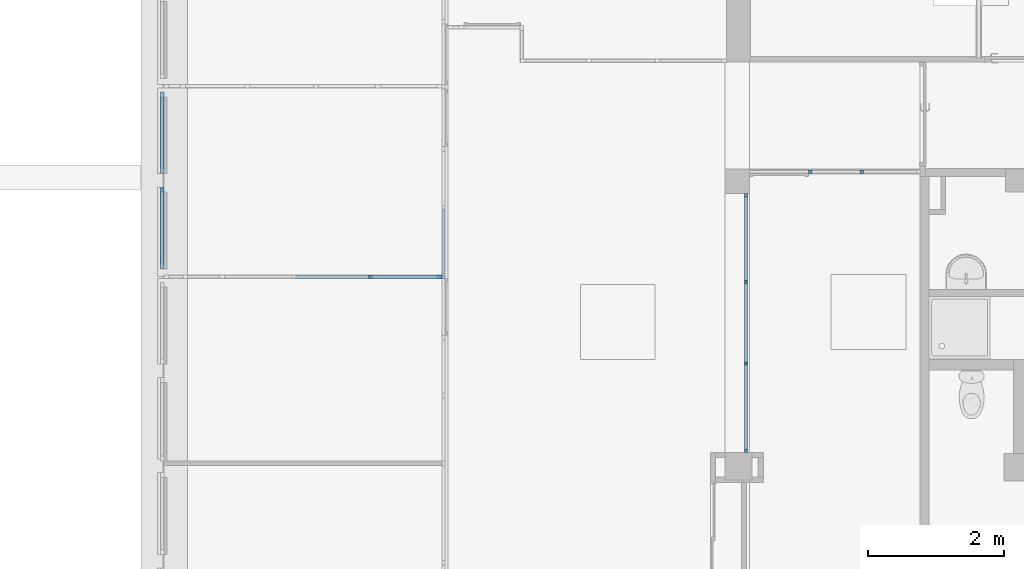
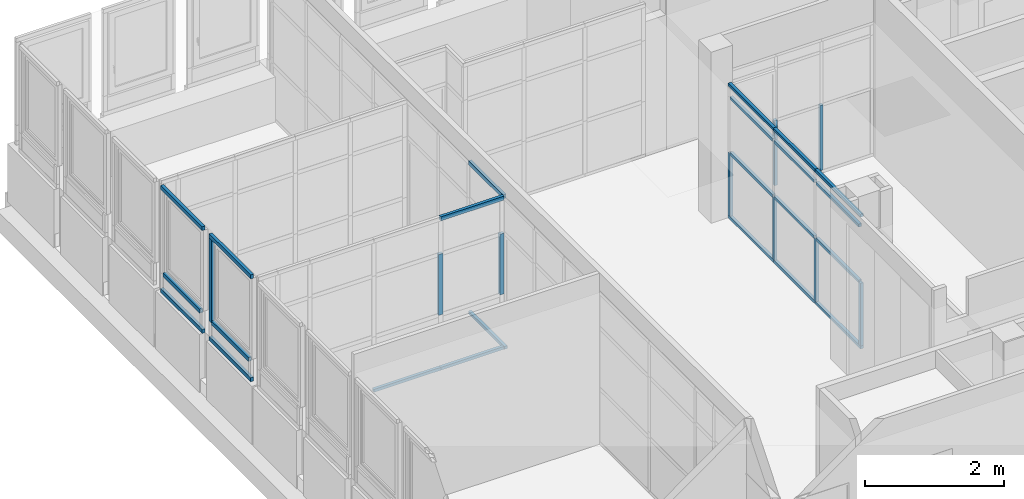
# One storey, part 7 of 97: 32 members, 6 elements without a shape of their own.
"""IFC4 building model written with IfcOpenShell, lengths in metres."""

from ifc_helpers import new_model, entity, si_unit, converted_unit, derived_unit, direction, frame, origin, place, context, subcontext, project, spatial, indexed_curve, outline, extrude, source, transform, mapped, material, type_object, type_shapes, element, aggregate, save


model = new_model("IFC4")

# Units and contexts
model_context = context("Model", 3, precision=1e-05, world=origin(), true_north=direction((6.12303176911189e-17, 1.0)))
body_context = subcontext(model_context, "Body", "Model", "MODEL_VIEW")
ifc_project = project(units=[si_unit("LENGTHUNIT", "METRE"), si_unit("AREAUNIT", "SQUARE_METRE"), si_unit("VOLUMEUNIT", "CUBIC_METRE"), converted_unit("PLANEANGLEUNIT", "DEGREE", entity("IfcRatioMeasure", 0.0174532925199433), si_unit("PLANEANGLEUNIT", "RADIAN"), dimensions=[0, 0, 0, 0, 0, 0, 0]), si_unit("MASSUNIT", "GRAM", prefix="KILO"), derived_unit("MASSDENSITYUNIT", [(si_unit("MASSUNIT", "GRAM", prefix="KILO"), 1), (si_unit("LENGTHUNIT", "METRE"), -3)]), derived_unit("MOMENTOFINERTIAUNIT", [(si_unit("LENGTHUNIT", "METRE"), 4)]), si_unit("TIMEUNIT", "SECOND"), si_unit("FREQUENCYUNIT", "HERTZ"), si_unit("THERMODYNAMICTEMPERATUREUNIT", "DEGREE_CELSIUS"), derived_unit("THERMALTRANSMITTANCEUNIT", [(si_unit("MASSUNIT", "GRAM", prefix="KILO"), 1), (si_unit("THERMODYNAMICTEMPERATUREUNIT", "KELVIN"), -1), (si_unit("TIMEUNIT", "SECOND"), -3)]), derived_unit("VOLUMETRICFLOWRATEUNIT", [(si_unit("LENGTHUNIT", "METRE"), 3), (si_unit("TIMEUNIT", "SECOND"), -1)]), si_unit("ELECTRICCURRENTUNIT", "AMPERE"), si_unit("ELECTRICVOLTAGEUNIT", "VOLT"), si_unit("POWERUNIT", "WATT"), si_unit("FORCEUNIT", "NEWTON", prefix="KILO"), si_unit("ILLUMINANCEUNIT", "LUX"), si_unit("LUMINOUSFLUXUNIT", "LUMEN"), si_unit("LUMINOUSINTENSITYUNIT", "CANDELA"), derived_unit("USERDEFINED", [(si_unit("MASSUNIT", "GRAM", prefix="KILO"), -1), (si_unit("LENGTHUNIT", "METRE"), -2), (si_unit("TIMEUNIT", "SECOND"), 3), (si_unit("LUMINOUSFLUXUNIT", "LUMEN"), 1)]), derived_unit("LINEARVELOCITYUNIT", [(si_unit("LENGTHUNIT", "METRE"), 1), (si_unit("TIMEUNIT", "SECOND"), -1)]), si_unit("PRESSUREUNIT", "PASCAL"), derived_unit("USERDEFINED", [(si_unit("LENGTHUNIT", "METRE"), -2), (si_unit("MASSUNIT", "GRAM", prefix="KILO"), 1), (si_unit("TIMEUNIT", "SECOND"), -2)]), derived_unit("LINEARFORCEUNIT", [(si_unit("MASSUNIT", "GRAM", prefix="KILO"), 1), (si_unit("LENGTHUNIT", "METRE"), 1), (si_unit("TIMEUNIT", "SECOND"), -2), (si_unit("LENGTHUNIT", "METRE"), -1)]), derived_unit("PLANARFORCEUNIT", [(si_unit("MASSUNIT", "GRAM", prefix="KILO"), 1), (si_unit("LENGTHUNIT", "METRE"), 1), (si_unit("TIMEUNIT", "SECOND"), -2), (si_unit("LENGTHUNIT", "METRE"), -2)])], contexts=[model_context])

# Site, building, storey
site_placement = place(None, origin())
site = spatial("IfcSite", under=ifc_project, at=site_placement, Name="Default", CompositionType="ELEMENT")
building_placement = place(site_placement, origin())
building = spatial("IfcBuilding", under=site, at=building_placement, Name="HOTEL CONSULAIRE BOULOGNE SUR MER", CompositionType="ELEMENT")
storey_placement = place(building_placement, frame((0.0, 0.0, 3.62152697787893)))
storey = spatial("IfcBuildingStorey", under=building, at=storey_placement, Name="Niveau 1", CompositionType="ELEMENT", Elevation=3.62152697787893)

# Curtain wall, member
curtain_wall_type = type_object("IfcCurtainWallType", Name="Mur-rideau:Simple panneau", PredefinedType="NOTDEFINED")
curtain_wall_1_placement = place(storey_placement, frame((0.0, 0.0, -3.62152697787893)))
curtain_wall_1 = element("IfcCurtainWall", 1, at=curtain_wall_1_placement, inside=storey, type_object=curtain_wall_type, Name="Mur-rideau:Simple panneau", ObjectType="Mur-rideau:Simple panneau", PredefinedType="NOTDEFINED")
ifc_material_1 = material(Name="PVC - Blanc", Category="Plastique")
member_type_1 = type_object("IfcMemberType", Name="Meneau rectangulaire:50 x 35", PredefinedType="MULLION", material=ifc_material_1)
shared_shape_1 = source(origin(), body_context, "Body", "SweptSolid", [
    extrude(outline(indexed_curve([(-0.025, -0.035), (0.025, -0.035), (0.025, 0.035), (-0.025, 0.035), (-0.025, -0.035)], self_intersect=False)), frame((-0.035, -0.025, -1.20000000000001), z_axis=(0.0, 0.0, 1.0), x_axis=(0.0, -1.0, 0.0)), (0.0, 0.0, 1.0), 1.20000000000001),
])
type_shapes(member_type_1, [shared_shape_1])
member_1_placement = place(storey_placement, frame((-13.7870998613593, -16.9114499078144, 0.791612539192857), z_axis=(0.0, -1.0, 0.0), x_axis=(0.0, 0.0, -1.0)))
member_1 = element("IfcMember", 2, at=member_1_placement, type_object=member_type_1, material=ifc_material_1, Name="Meneau rectangulaire:50 x 35", ObjectType="Meneau rectangulaire:50 x 35", PredefinedType="MULLION", context=body_context, shape_type="MappedRepresentation", body=[
    mapped(shared_shape_1, transform((0.0, 0.0, 0.0), scale=1.0)),
])

curtain_wall_2_placement = place(storey_placement, frame((0.0, 0.0, -3.62152697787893)))
curtain_wall_2 = element("IfcCurtainWall", 3, at=curtain_wall_2_placement, inside=storey, type_object=curtain_wall_type, Name="Mur-rideau:Simple panneau", ObjectType="Mur-rideau:Simple panneau", PredefinedType="NOTDEFINED")
member_2_placement = place(storey_placement, frame((-13.7870998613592, -15.5114499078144, 0.791612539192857), z_axis=(0.0, -1.0, 0.0), x_axis=(0.0, 0.0, -1.0)))
member_2 = element("IfcMember", 4, at=member_2_placement, type_object=member_type_1, material=ifc_material_1, Name="Meneau rectangulaire:50 x 35", ObjectType="Meneau rectangulaire:50 x 35", PredefinedType="MULLION", context=body_context, shape_type="MappedRepresentation", body=[
    mapped(shared_shape_1, transform((0.0, 0.0, 0.0), scale=1.0)),
])

# Member
member_type_2 = type_object("IfcMemberType", Name="Meneau rectangulaire:50 x 35", PredefinedType="MULLION", material=ifc_material_1)
shared_shape_2 = source(origin(), body_context, "Body", "SweptSolid", [
    extrude(outline(indexed_curve([(-0.025, -0.035), (0.025, -0.035), (0.025, 0.035), (-0.025, 0.035), (-0.025, -0.035)], self_intersect=False)), frame((0.0, -0.025, -1.06000000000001), z_axis=(0.0, 0.0, 1.0), x_axis=(0.0, -1.0, 0.0)), (0.0, 0.0, 1.0), 1.06000000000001),
])
type_shapes(member_type_2, [shared_shape_2])
member_3_placement = place(storey_placement, frame((-13.7870998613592, -15.7814499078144, 1.13961253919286), z_axis=(0.0, 1.0, 0.0), x_axis=(0.0, 0.0, 1.0)))
member_3 = element("IfcMember", 5, at=member_3_placement, type_object=member_type_2, material=ifc_material_1, Name="Meneau rectangulaire:50 x 35", ObjectType="Meneau rectangulaire:50 x 35", PredefinedType="MULLION", context=body_context, shape_type="MappedRepresentation", body=[
    mapped(shared_shape_2, transform((0.0, 0.0, 0.0), scale=1.0)),
])

member_4_placement = place(storey_placement, frame((-13.7870998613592, -14.3814499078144, 1.13961253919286), z_axis=(0.0, 1.0, 0.0), x_axis=(0.0, 0.0, 1.0)))
member_4 = element("IfcMember", 6, at=member_4_placement, type_object=member_type_2, material=ifc_material_1, Name="Meneau rectangulaire:50 x 35", ObjectType="Meneau rectangulaire:50 x 35", PredefinedType="MULLION", context=body_context, shape_type="MappedRepresentation", body=[
    mapped(shared_shape_2, transform((0.0, 0.0, 0.0), scale=1.0)),
])

member_type_3 = type_object("IfcMemberType", Name="Meneau rectangulaire:50 x 35", PredefinedType="MULLION", material=ifc_material_1)
shared_shape_3 = source(origin(), body_context, "Body", "SweptSolid", [
    extrude(outline(indexed_curve([(-0.025, -0.035), (0.025, -0.035), (0.025, 0.035), (-0.025, 0.035), (-0.025, -0.035)], self_intersect=False)), frame((-0.035, -0.025, -1.46086048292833), z_axis=(0.0, 0.0, 1.0), x_axis=(0.0, -1.0, 0.0)), (0.0, 0.0, 1.0), 1.46086048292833),
])
type_shapes(member_type_3, [shared_shape_3])
member_5_placement = place(storey_placement, frame((-13.7870998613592, -15.7114499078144, 1.13961253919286), z_axis=(0.0, 0.0, -1.0), x_axis=(0.0, 1.0, 0.0)))
member_5 = element("IfcMember", 7, at=member_5_placement, type_object=member_type_3, material=ifc_material_1, Name="Meneau rectangulaire:50 x 35", ObjectType="Meneau rectangulaire:50 x 35", PredefinedType="MULLION", context=body_context, shape_type="MappedRepresentation", body=[
    mapped(shared_shape_3, transform((0.0, 0.0, 0.0), scale=1.0)),
])

member_type_4 = type_object("IfcMemberType", Name="Meneau rectangulaire:50 x 35", PredefinedType="MULLION", material=ifc_material_1)
shared_shape_4 = source(origin(), body_context, "Body", "SweptSolid", [
    extrude(outline(indexed_curve([(-0.025, -0.035), (0.025, -0.035), (0.025, 0.035), (-0.025, 0.035), (-0.025, -0.035)], self_intersect=False)), frame((-0.035, -0.025, -1.20000000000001), z_axis=(0.0, 0.0, 1.0), x_axis=(0.0, -1.0, 0.0)), (0.0, 0.0, 1.0), 1.20000000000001),
])
type_shapes(member_type_4, [shared_shape_4])
member_6_placement = place(storey_placement, frame((-13.7870998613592, -15.7114499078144, 2.67047302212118), z_axis=(0.0, 1.0, 0.0), x_axis=(0.0, 0.0, 1.0)))
member_6 = element("IfcMember", 8, at=member_6_placement, type_object=member_type_4, material=ifc_material_1, Name="Meneau rectangulaire:50 x 35", ObjectType="Meneau rectangulaire:50 x 35", PredefinedType="MULLION", context=body_context, shape_type="MappedRepresentation", body=[
    mapped(shared_shape_4, transform((0.0, 0.0, 0.0), scale=1.0)),
])

aggregate(curtain_wall_1, [member_6, member_1, member_3, member_5])

member_7_placement = place(storey_placement, frame((-13.7870998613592, -14.3114499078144, 2.67047302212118), z_axis=(0.0, 1.0, 0.0), x_axis=(0.0, 0.0, 1.0)))
member_7 = element("IfcMember", 9, at=member_7_placement, type_object=member_type_4, material=ifc_material_1, Name="Meneau rectangulaire:50 x 35", ObjectType="Meneau rectangulaire:50 x 35", PredefinedType="MULLION", context=body_context, shape_type="MappedRepresentation", body=[
    mapped(shared_shape_4, transform((0.0, 0.0, 0.0), scale=1.0)),
])

aggregate(curtain_wall_2, [member_7, member_2, member_4])

# Curtain wall, members
curtain_wall_3_placement = place(storey_placement, frame((0.0, 0.0, -3.62152697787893)))
curtain_wall_3 = element("IfcCurtainWall", 10, at=curtain_wall_3_placement, inside=storey, type_object=curtain_wall_type, Name="Mur-rideau:Simple panneau", ObjectType="Mur-rideau:Simple panneau", PredefinedType="NOTDEFINED")
ifc_material_2 = material(Name="PVC, souple", Category="Plastique")
member_type_5 = type_object("IfcMemberType", Name="Meneau rectangulaire:50 x 35 pvc gris", PredefinedType="MULLION", material=ifc_material_2)
shared_shape_5 = source(origin(), body_context, "Body", "SweptSolid", [
    extrude(outline(indexed_curve([(-0.025, -0.035), (0.025, -0.035), (0.025, 0.035), (-0.025, 0.035), (-0.025, -0.035)], self_intersect=False)), frame((-0.035, -0.025, -0.999), z_axis=(0.0, 0.0, 1.0), x_axis=(0.0, -1.0, 0.0)), (0.0, 0.0, 1.0), 0.999),
])
type_shapes(member_type_5, [shared_shape_5])
member_8_placement = place(storey_placement, frame((-9.64962464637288, -16.0232596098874, 2.69696046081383), z_axis=(0.0, 1.0, 0.0), x_axis=(0.0, 0.0, 1.0)))
member_8 = element("IfcMember", 11, at=member_8_placement, type_object=member_type_5, material=ifc_material_2, Name="Meneau rectangulaire:50 x 35 pvc gris", ObjectType="Meneau rectangulaire:50 x 35 pvc gris", PredefinedType="MULLION", context=body_context, shape_type="MappedRepresentation", body=[
    mapped(shared_shape_5, transform((0.0, 0.0, 0.0), scale=1.0)),
])
member_type_6 = type_object("IfcMemberType", Name="Meneau rectangulaire:50 x 25mm pvc gris", PredefinedType="MULLION", material=ifc_material_2)
shared_shape_6 = source(origin(), body_context, "Body", "SweptSolid", [
    extrude(outline(indexed_curve([(-0.025, -0.025), (0.025, -0.025), (0.025, 0.025), (-0.025, 0.025), (-0.025, -0.025)], self_intersect=False)), frame((-0.025, -0.025, -1.034), z_axis=(0.0, 0.0, 1.0), x_axis=(0.0, -1.0, 0.0)), (0.0, 0.0, 1.0), 1.034),
])
type_shapes(member_type_6, [shared_shape_6])
member_9_placement = place(storey_placement, frame((-9.64962464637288, -17.0572596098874, 0.0), z_axis=(0.0, -1.0, 0.0), x_axis=(0.0, 0.0, -1.0)))
member_9 = element("IfcMember", 12, at=member_9_placement, type_object=member_type_6, material=ifc_material_2, Name="Meneau rectangulaire:50 x 25mm pvc gris", ObjectType="Meneau rectangulaire:50 x 25mm pvc gris", PredefinedType="MULLION", context=body_context, shape_type="MappedRepresentation", body=[
    mapped(shared_shape_6, transform((0.0, 0.0, 0.0), scale=1.0)),
])
aggregate(curtain_wall_3, [member_8, member_9])

curtain_wall_4_placement = place(storey_placement, frame((0.0, 0.0, -3.62152697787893)))
curtain_wall_4 = element("IfcCurtainWall", 13, at=curtain_wall_4_placement, inside=storey, type_object=curtain_wall_type, Name="Mur-rideau:Simple panneau", ObjectType="Mur-rideau:Simple panneau", PredefinedType="NOTDEFINED")
member_type_7 = type_object("IfcMemberType", Name="Meneau rectangulaire:50 x 35 pvc gris", PredefinedType="MULLION", material=ifc_material_2)
shared_shape_7 = source(origin(), body_context, "Body", "SweptSolid", [
    extrude(outline(indexed_curve([(-0.025, -0.035), (0.025, -0.035), (0.025, 0.035), (-0.025, 0.035), (-0.025, -0.035)], self_intersect=False)), frame((-0.035, -0.025, -1.054), z_axis=(0.0, 0.0, 1.0), x_axis=(0.0, -1.0, 0.0)), (0.0, 0.0, 1.0), 1.054),
])
type_shapes(member_type_7, [shared_shape_7])
member_10_placement = place(storey_placement, frame((-10.7536246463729, -17.0018458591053, 2.69696046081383), z_axis=(-1.0, 0.0, 0.0), x_axis=(0.0, 0.0, 1.0)))
member_10 = element("IfcMember", 14, at=member_10_placement, type_object=member_type_7, material=ifc_material_2, Name="Meneau rectangulaire:50 x 35 pvc gris", ObjectType="Meneau rectangulaire:50 x 35 pvc gris", PredefinedType="MULLION", context=body_context, shape_type="MappedRepresentation", body=[
    mapped(shared_shape_7, transform((0.0, 0.0, 0.0), scale=1.0)),
])
member_type_8 = type_object("IfcMemberType", Name="Meneau rectangulaire:50 x 35 pvc gris", PredefinedType="MULLION", material=ifc_material_2)
shared_shape_8 = source(origin(), body_context, "Body", "SweptSolid", [
    extrude(outline(indexed_curve([(-0.025, -0.035), (0.025, -0.035), (0.025, 0.035), (-0.025, 0.035), (-0.025, -0.035)], self_intersect=False)), frame((-0.035, -0.025, -1.06896046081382), z_axis=(0.0, 0.0, 1.0), x_axis=(0.0, -1.0, 0.0)), (0.0, 0.0, 1.0), 1.06896046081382),
])
type_shapes(member_type_8, [shared_shape_8])
member_11_placement = place(storey_placement, frame((-9.69962464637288, -17.0018458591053, 2.04596046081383)))
member_11 = element("IfcMember", 15, at=member_11_placement, type_object=member_type_8, material=ifc_material_2, Name="Meneau rectangulaire:50 x 35 pvc gris", ObjectType="Meneau rectangulaire:50 x 35 pvc gris", PredefinedType="MULLION", context=body_context, shape_type="MappedRepresentation", body=[
    mapped(shared_shape_8, transform((0.0, 0.0, 0.0), scale=1.0)),
])
member_type_9 = type_object("IfcMemberType", Name="Meneau rectangulaire:50 x 35 pvc gris", PredefinedType="MULLION", material=ifc_material_2)
shared_shape_9 = source(origin(), body_context, "Body", "SweptSolid", [
    extrude(outline(indexed_curve([(-0.025, -0.035), (0.025, -0.035), (0.025, 0.035), (-0.025, 0.035), (-0.025, -0.035)], self_intersect=False)), frame((0.0, -0.025, -1.06896046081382), z_axis=(0.0, 0.0, 1.0), x_axis=(0.0, -1.0, 0.0)), (0.0, 0.0, 1.0), 1.06896046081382),
])
type_shapes(member_type_9, [shared_shape_9])
member_12_placement = place(storey_placement, frame((-10.7536246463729, -17.0018458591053, 0.977000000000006), z_axis=(0.0, 0.0, -1.0), x_axis=(-1.0, 0.0, 0.0)))
member_12 = element("IfcMember", 16, at=member_12_placement, type_object=member_type_9, material=ifc_material_2, Name="Meneau rectangulaire:50 x 35 pvc gris", ObjectType="Meneau rectangulaire:50 x 35 pvc gris", PredefinedType="MULLION", context=body_context, shape_type="MappedRepresentation", body=[
    mapped(shared_shape_9, transform((0.0, 0.0, 0.0), scale=1.0)),
])
member_type_10 = type_object("IfcMemberType", Name="Meneau rectangulaire:50 x 25mm pvc gris", PredefinedType="MULLION", material=ifc_material_2)
shared_shape_10 = source(origin(), body_context, "Body", "SweptSolid", [
    extrude(outline(indexed_curve([(-0.025, -0.025), (0.025, -0.025), (0.025, 0.025), (-0.025, 0.025), (-0.025, -0.025)], self_intersect=False)), frame((-0.025, -0.025, -1.112), z_axis=(0.0, 0.0, 1.0), x_axis=(0.0, -1.0, 0.0)), (0.0, 0.0, 1.0), 1.112),
])
type_shapes(member_type_10, [shared_shape_10])
member_13_placement = place(storey_placement, frame((-10.7536246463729, -17.0018458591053, 0.0), z_axis=(1.0, 0.0, 0.0), x_axis=(0.0, 0.0, -1.0)))
member_13 = element("IfcMember", 17, at=member_13_placement, type_object=member_type_10, material=ifc_material_2, Name="Meneau rectangulaire:50 x 25mm pvc gris", ObjectType="Meneau rectangulaire:50 x 25mm pvc gris", PredefinedType="MULLION", context=body_context, shape_type="MappedRepresentation", body=[
    mapped(shared_shape_10, transform((0.0, 0.0, 0.0), scale=1.0)),
])
member_type_11 = type_object("IfcMemberType", Name="Meneau rectangulaire:50 x 25mm pvc gris", PredefinedType="MULLION", material=ifc_material_2)
shared_shape_11 = source(origin(), body_context, "Body", "SweptSolid", [
    extrude(outline(indexed_curve([(-0.025, -0.025), (0.025, -0.025), (0.025, 0.025), (-0.025, 0.025), (-0.025, -0.025)], self_intersect=False)), frame((-0.025, -0.025, -1.054), z_axis=(0.0, 0.0, 1.0), x_axis=(0.0, -1.0, 0.0)), (0.0, 0.0, 1.0), 1.054),
])
type_shapes(member_type_11, [shared_shape_11])
member_14_placement = place(storey_placement, frame((-9.69962464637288, -17.0018458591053, 0.0), z_axis=(1.0, 0.0, 0.0), x_axis=(0.0, 0.0, -1.0)))
member_14 = element("IfcMember", 18, at=member_14_placement, type_object=member_type_11, material=ifc_material_2, Name="Meneau rectangulaire:50 x 25mm pvc gris", ObjectType="Meneau rectangulaire:50 x 25mm pvc gris", PredefinedType="MULLION", context=body_context, shape_type="MappedRepresentation", body=[
    mapped(shared_shape_11, transform((0.0, 0.0, 0.0), scale=1.0)),
])
aggregate(curtain_wall_4, [member_10, member_11, member_12, member_13, member_14])

curtain_wall_5_placement = place(storey_placement, frame((0.0, 0.0, -3.62152697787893)))
curtain_wall_5 = element("IfcCurtainWall", 19, at=curtain_wall_5_placement, inside=storey, type_object=curtain_wall_type, Name="Mur-rideau:Simple panneau", ObjectType="Mur-rideau:Simple panneau", PredefinedType="NOTDEFINED")
member_type_12 = type_object("IfcMemberType", Name="Meneau rectangulaire:50 x 25mm", PredefinedType="MULLION", material=ifc_material_1)
shared_shape_12 = source(origin(), body_context, "Body", "SweptSolid", [
    extrude(outline(indexed_curve([(-0.025, -0.025), (0.025, -0.025), (0.025, 0.025), (-0.025, 0.025), (-0.025, -0.025)], self_intersect=False)), frame((-0.025, -0.025, -1.3031685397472), z_axis=(0.0, 0.0, 1.0), x_axis=(0.0, -1.0, 0.0)), (0.0, 0.0, 1.0), 1.3031685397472),
])
type_shapes(member_type_12, [shared_shape_12])
member_15_placement = place(storey_placement, frame((-5.19852868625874, -17.1060276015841, 0.0), z_axis=(0.0, -1.0, 0.0), x_axis=(0.0, 0.0, -1.0)))
member_15 = element("IfcMember", 20, at=member_15_placement, type_object=member_type_12, material=ifc_material_1, Name="Meneau rectangulaire:50 x 25mm", ObjectType="Meneau rectangulaire:50 x 25mm", PredefinedType="MULLION", context=body_context, shape_type="MappedRepresentation", body=[
    mapped(shared_shape_12, transform((0.0, 0.0, 0.0), scale=1.0)),
])
member_type_13 = type_object("IfcMemberType", Name="Meneau rectangulaire:50 x 25mm", PredefinedType="MULLION", material=ifc_material_1)
shared_shape_13 = source(origin(), body_context, "Body", "SweptSolid", [
    extrude(outline(indexed_curve([(-0.025, -0.025), (0.025, -0.025), (0.025, 0.025), (-0.025, 0.025), (-0.025, -0.025)], self_intersect=False)), frame((-0.025, -0.025, -1.199), z_axis=(0.0, 0.0, 1.0), x_axis=(0.0, -1.0, 0.0)), (0.0, 0.0, 1.0), 1.199),
])
type_shapes(member_type_13, [shared_shape_13])
member_16_placement = place(storey_placement, frame((-5.19852868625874, -18.3050276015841, 0.0), z_axis=(0.0, -1.0, 0.0), x_axis=(0.0, 0.0, -1.0)))
member_16 = element("IfcMember", 21, at=member_16_placement, type_object=member_type_13, material=ifc_material_1, Name="Meneau rectangulaire:50 x 25mm", ObjectType="Meneau rectangulaire:50 x 25mm", PredefinedType="MULLION", context=body_context, shape_type="MappedRepresentation", body=[
    mapped(shared_shape_13, transform((0.0, 0.0, 0.0), scale=1.0)),
])
member_type_14 = type_object("IfcMemberType", Name="Meneau rectangulaire:50 x 25mm", PredefinedType="MULLION", material=ifc_material_1)
shared_shape_14 = source(origin(), body_context, "Body", "SweptSolid", [
    extrude(outline(indexed_curve([(-0.025, -0.025), (0.025, -0.025), (0.025, 0.025), (-0.025, 0.025), (-0.025, -0.025)], self_intersect=False)), frame((-0.025, -0.025, -1.312), z_axis=(0.0, 0.0, 1.0), x_axis=(0.0, -1.0, 0.0)), (0.0, 0.0, 1.0), 1.312),
])
type_shapes(member_type_14, [shared_shape_14])
member_17_placement = place(storey_placement, frame((-5.19852868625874, -19.6170276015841, 0.0), z_axis=(0.0, -1.0, 0.0), x_axis=(0.0, 0.0, -1.0)))
member_17 = element("IfcMember", 22, at=member_17_placement, type_object=member_type_14, material=ifc_material_1, Name="Meneau rectangulaire:50 x 25mm", ObjectType="Meneau rectangulaire:50 x 25mm", PredefinedType="MULLION", context=body_context, shape_type="MappedRepresentation", body=[
    mapped(shared_shape_14, transform((0.0, 0.0, 0.0), scale=1.0)),
])
member_type_15 = type_object("IfcMemberType", Name="Meneau rectangulaire:50 x 25mm", PredefinedType="MULLION", material=ifc_material_1)
shared_shape_15 = source(origin(), body_context, "Body", "SweptSolid", [
    extrude(outline(indexed_curve([(-0.025, -0.025), (0.025, -0.025), (0.025, 0.025), (-0.025, 0.025), (-0.025, -0.025)], self_intersect=False)), frame((-0.025, -0.025, -1.3031685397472), z_axis=(0.0, 0.0, 1.0), x_axis=(0.0, -1.0, 0.0)), (0.0, 0.0, 1.0), 1.3031685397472),
])
type_shapes(member_type_15, [shared_shape_15])
member_18_placement = place(storey_placement, frame((-5.19852868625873, -15.8028590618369, 2.37021454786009), z_axis=(0.0, 1.0, 0.0), x_axis=(0.0, 0.0, 1.0)))
member_18 = element("IfcMember", 23, at=member_18_placement, type_object=member_type_15, material=ifc_material_1, Name="Meneau rectangulaire:50 x 25mm", ObjectType="Meneau rectangulaire:50 x 25mm", PredefinedType="MULLION", context=body_context, shape_type="MappedRepresentation", body=[
    mapped(shared_shape_15, transform((0.0, 0.0, 0.0), scale=1.0)),
])
member_type_16 = type_object("IfcMemberType", Name="Meneau rectangulaire:50 x 25mm", PredefinedType="MULLION", material=ifc_material_1)
shared_shape_16 = source(origin(), body_context, "Body", "SweptSolid", [
    extrude(outline(indexed_curve([(-0.025, -0.025), (0.025, -0.025), (0.025, 0.025), (-0.025, 0.025), (-0.025, -0.025)], self_intersect=False)), frame((-0.025, -0.025, -1.106), z_axis=(0.0, 0.0, 1.0), x_axis=(0.0, -1.0, 0.0)), (0.0, 0.0, 1.0), 1.106),
])
type_shapes(member_type_16, [shared_shape_16])
member_19_placement = place(storey_placement, frame((-5.19852868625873, -15.8028590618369, 0.05), z_axis=(0.0, 0.0, -1.0), x_axis=(0.0, 1.0, 0.0)))
member_19 = element("IfcMember", 24, at=member_19_placement, type_object=member_type_16, material=ifc_material_1, Name="Meneau rectangulaire:50 x 25mm", ObjectType="Meneau rectangulaire:50 x 25mm", PredefinedType="MULLION", context=body_context, shape_type="MappedRepresentation", body=[
    mapped(shared_shape_16, transform((0.0, 0.0, 0.0), scale=1.0)),
])
member_type_17 = type_object("IfcMemberType", Name="Meneau rectangulaire:50 x 25mm", PredefinedType="MULLION", material=ifc_material_1)
shared_shape_17 = source(origin(), body_context, "Body", "SweptSolid", [
    extrude(outline(indexed_curve([(-0.025, -0.025), (0.025, -0.025), (0.025, 0.025), (-0.025, 0.025), (-0.025, -0.025)], self_intersect=False)), frame((0.0, -0.025, -1.106), z_axis=(0.0, 0.0, 1.0), x_axis=(0.0, -1.0, 0.0)), (0.0, 0.0, 1.0), 1.106),
])
type_shapes(member_type_17, [shared_shape_17])
member_20_placement = place(storey_placement, frame((-5.19852868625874, -18.3050276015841, 0.05), z_axis=(0.0, 0.0, -1.0), x_axis=(0.0, 1.0, 0.0)))
member_20 = element("IfcMember", 25, at=member_20_placement, type_object=member_type_17, material=ifc_material_1, Name="Meneau rectangulaire:50 x 25mm", ObjectType="Meneau rectangulaire:50 x 25mm", PredefinedType="MULLION", context=body_context, shape_type="MappedRepresentation", body=[
    mapped(shared_shape_17, transform((0.0, 0.0, 0.0), scale=1.0)),
])
member_21_placement = place(storey_placement, frame((-5.19852868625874, -17.1060276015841, 0.05), z_axis=(0.0, 0.0, -1.0), x_axis=(0.0, 1.0, 0.0)))
member_21 = element("IfcMember", 26, at=member_21_placement, type_object=member_type_17, material=ifc_material_1, Name="Meneau rectangulaire:50 x 25mm", ObjectType="Meneau rectangulaire:50 x 25mm", PredefinedType="MULLION", context=body_context, shape_type="MappedRepresentation", body=[
    mapped(shared_shape_17, transform((0.0, 0.0, 0.0), scale=1.0)),
])
member_type_18 = type_object("IfcMemberType", Name="Meneau rectangulaire:50 x 25mm", PredefinedType="MULLION", material=ifc_material_1)
shared_shape_18 = source(origin(), body_context, "Body", "SweptSolid", [
    extrude(outline(indexed_curve([(-0.025, -0.025), (0.025, -0.025), (0.025, 0.025), (-0.025, 0.025), (-0.025, -0.025)], self_intersect=False)), frame((0.0, -0.025, -1.237), z_axis=(0.0, 0.0, 1.0), x_axis=(0.0, -1.0, 0.0)), (0.0, 0.0, 1.0), 1.237),
])
type_shapes(member_type_18, [shared_shape_18])
member_22_placement = place(storey_placement, frame((-5.19852868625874, -18.3300276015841, 1.156), z_axis=(0.0, 1.0, 0.0), x_axis=(0.0, 0.0, 1.0)))
member_22 = element("IfcMember", 27, at=member_22_placement, type_object=member_type_18, material=ifc_material_1, Name="Meneau rectangulaire:50 x 25mm", ObjectType="Meneau rectangulaire:50 x 25mm", PredefinedType="MULLION", context=body_context, shape_type="MappedRepresentation", body=[
    mapped(shared_shape_18, transform((0.0, 0.0, 0.0), scale=1.0)),
])
member_23_placement = place(storey_placement, frame((-5.19852868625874, -18.3300276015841, 2.1396998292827), z_axis=(0.0, 1.0, 0.0), x_axis=(0.0, 0.0, 1.0)))
member_23 = element("IfcMember", 28, at=member_23_placement, type_object=member_type_18, material=ifc_material_1, Name="Meneau rectangulaire:50 x 25mm", ObjectType="Meneau rectangulaire:50 x 25mm", PredefinedType="MULLION", context=body_context, shape_type="MappedRepresentation", body=[
    mapped(shared_shape_18, transform((0.0, 0.0, 0.0), scale=1.0)),
])
member_type_19 = type_object("IfcMemberType", Name="Meneau rectangulaire:50 x 25mm", PredefinedType="MULLION", material=ifc_material_1)
shared_shape_19 = source(origin(), body_context, "Body", "SweptSolid", [
    extrude(outline(indexed_curve([(-0.025, -0.025), (0.025, -0.025), (0.025, 0.025), (-0.025, 0.025), (-0.025, -0.025)], self_intersect=False)), frame((0.0, -0.025, -1.149), z_axis=(0.0, 0.0, 1.0), x_axis=(0.0, -1.0, 0.0)), (0.0, 0.0, 1.0), 1.149),
])
type_shapes(member_type_19, [shared_shape_19])
member_24_placement = place(storey_placement, frame((-5.19852868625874, -17.1310276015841, 1.156), z_axis=(0.0, 1.0, 0.0), x_axis=(0.0, 0.0, 1.0)))
member_24 = element("IfcMember", 29, at=member_24_placement, type_object=member_type_19, material=ifc_material_1, Name="Meneau rectangulaire:50 x 25mm", ObjectType="Meneau rectangulaire:50 x 25mm", PredefinedType="MULLION", context=body_context, shape_type="MappedRepresentation", body=[
    mapped(shared_shape_19, transform((0.0, 0.0, 0.0), scale=1.0)),
])
member_25_placement = place(storey_placement, frame((-5.19852868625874, -17.1310276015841, 2.1396998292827), z_axis=(0.0, 1.0, 0.0), x_axis=(0.0, 0.0, 1.0)))
member_25 = element("IfcMember", 30, at=member_25_placement, type_object=member_type_19, material=ifc_material_1, Name="Meneau rectangulaire:50 x 25mm", ObjectType="Meneau rectangulaire:50 x 25mm", PredefinedType="MULLION", context=body_context, shape_type="MappedRepresentation", body=[
    mapped(shared_shape_19, transform((0.0, 0.0, 0.0), scale=1.0)),
])
member_type_20 = type_object("IfcMemberType", Name="Meneau rectangulaire:50 x 25mm", PredefinedType="MULLION", material=ifc_material_1)
shared_shape_20 = source(origin(), body_context, "Body", "SweptSolid", [
    extrude(outline(indexed_curve([(-0.025, -0.025), (0.025, -0.025), (0.025, 0.025), (-0.025, 0.025), (-0.025, -0.025)], self_intersect=False)), frame((0.0, -0.025, -1.2281685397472), z_axis=(0.0, 0.0, 1.0), x_axis=(0.0, -1.0, 0.0)), (0.0, 0.0, 1.0), 1.2281685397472),
])
type_shapes(member_type_20, [shared_shape_20])
member_26_placement = place(storey_placement, frame((-5.19852868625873, -15.8528590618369, 1.156), z_axis=(0.0, 1.0, 0.0), x_axis=(0.0, 0.0, 1.0)))
member_26 = element("IfcMember", 31, at=member_26_placement, type_object=member_type_20, material=ifc_material_1, Name="Meneau rectangulaire:50 x 25mm", ObjectType="Meneau rectangulaire:50 x 25mm", PredefinedType="MULLION", context=body_context, shape_type="MappedRepresentation", body=[
    mapped(shared_shape_20, transform((0.0, 0.0, 0.0), scale=1.0)),
])
member_27_placement = place(storey_placement, frame((-5.19852868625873, -15.8528590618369, 2.1396998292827), z_axis=(0.0, 1.0, 0.0), x_axis=(0.0, 0.0, 1.0)))
member_27 = element("IfcMember", 32, at=member_27_placement, type_object=member_type_20, material=ifc_material_1, Name="Meneau rectangulaire:50 x 25mm", ObjectType="Meneau rectangulaire:50 x 25mm", PredefinedType="MULLION", context=body_context, shape_type="MappedRepresentation", body=[
    mapped(shared_shape_20, transform((0.0, 0.0, 0.0), scale=1.0)),
])
member_type_21 = type_object("IfcMemberType", Name="Meneau rectangulaire:50 x 25mm", PredefinedType="MULLION", material=ifc_material_1)
shared_shape_21 = source(origin(), body_context, "Body", "SweptSolid", [
    extrude(outline(indexed_curve([(-0.025, -0.025), (0.025, -0.025), (0.025, 0.025), (-0.025, 0.025), (-0.025, -0.025)], self_intersect=False)), frame((-0.025, -0.025, -1.312), z_axis=(0.0, 0.0, 1.0), x_axis=(0.0, -1.0, 0.0)), (0.0, 0.0, 1.0), 1.312),
])
type_shapes(member_type_21, [shared_shape_21])
member_28_placement = place(storey_placement, frame((-5.19852868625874, -18.3050276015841, 2.37021454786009), z_axis=(0.0, 1.0, 0.0), x_axis=(0.0, 0.0, 1.0)))
member_28 = element("IfcMember", 33, at=member_28_placement, type_object=member_type_21, material=ifc_material_1, Name="Meneau rectangulaire:50 x 25mm", ObjectType="Meneau rectangulaire:50 x 25mm", PredefinedType="MULLION", context=body_context, shape_type="MappedRepresentation", body=[
    mapped(shared_shape_21, transform((0.0, 0.0, 0.0), scale=1.0)),
])
member_type_22 = type_object("IfcMemberType", Name="Meneau rectangulaire:50 x 25mm", PredefinedType="MULLION", material=ifc_material_1)
shared_shape_22 = source(origin(), body_context, "Body", "SweptSolid", [
    extrude(outline(indexed_curve([(-0.025, -0.025), (0.025, -0.025), (0.025, 0.025), (-0.025, 0.025), (-0.025, -0.025)], self_intersect=False)), frame((-0.025, -0.025, -1.199), z_axis=(0.0, 0.0, 1.0), x_axis=(0.0, -1.0, 0.0)), (0.0, 0.0, 1.0), 1.199),
])
type_shapes(member_type_22, [shared_shape_22])
member_29_placement = place(storey_placement, frame((-5.19852868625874, -17.1060276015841, 2.37021454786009), z_axis=(0.0, 1.0, 0.0), x_axis=(0.0, 0.0, 1.0)))
member_29 = element("IfcMember", 34, at=member_29_placement, type_object=member_type_22, material=ifc_material_1, Name="Meneau rectangulaire:50 x 25mm", ObjectType="Meneau rectangulaire:50 x 25mm", PredefinedType="MULLION", context=body_context, shape_type="MappedRepresentation", body=[
    mapped(shared_shape_22, transform((0.0, 0.0, 0.0), scale=1.0)),
])
member_type_23 = type_object("IfcMemberType", Name="Meneau rectangulaire:50 x 25mm", PredefinedType="MULLION", material=ifc_material_1)
shared_shape_23 = source(origin(), body_context, "Body", "SweptSolid", [
    extrude(outline(indexed_curve([(-0.025, -0.025), (0.025, -0.025), (0.025, 0.025), (-0.025, 0.025), (-0.025, -0.025)], self_intersect=False)), frame((-0.025, -0.025, -1.106), z_axis=(0.0, 0.0, 1.0), x_axis=(0.0, -1.0, 0.0)), (0.0, 0.0, 1.0), 1.106),
])
type_shapes(member_type_23, [shared_shape_23])
member_30_placement = place(storey_placement, frame((-5.19852868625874, -19.6170276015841, 1.156), z_axis=(0.0, 0.0, 1.0), x_axis=(0.0, -1.0, 0.0)))
member_30 = element("IfcMember", 35, at=member_30_placement, type_object=member_type_23, material=ifc_material_1, Name="Meneau rectangulaire:50 x 25mm", ObjectType="Meneau rectangulaire:50 x 25mm", PredefinedType="MULLION", context=body_context, shape_type="MappedRepresentation", body=[
    mapped(shared_shape_23, transform((0.0, 0.0, 0.0), scale=1.0)),
])
aggregate(curtain_wall_5, [member_15, member_16, member_17, member_18, member_19, member_20, member_21, member_22, member_24, member_26, member_23, member_25, member_27, member_28, member_29, member_30])

curtain_wall_6_placement = place(storey_placement, frame((0.0, 0.0, -3.62152697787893)))
curtain_wall_6 = element("IfcCurtainWall", 36, at=curtain_wall_6_placement, inside=storey, type_object=curtain_wall_type, Name="Mur-rideau:Simple panneau", ObjectType="Mur-rideau:Simple panneau", PredefinedType="NOTDEFINED")
member_type_24 = type_object("IfcMemberType", Name="Meneau rectangulaire:50 x 25mm", PredefinedType="MULLION", material=ifc_material_1)
shared_shape_24 = source(origin(), body_context, "Body", "SweptSolid", [
    extrude(outline(indexed_curve([(-0.025, -0.025), (0.025, -0.025), (0.025, 0.025), (-0.025, 0.025), (-0.025, -0.025)], self_intersect=False)), frame((0.0, -0.025, -1.14739646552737), z_axis=(0.0, 0.0, 1.0), x_axis=(0.0, -1.0, 0.0)), (0.0, 0.0, 1.0), 1.14739646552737),
])
type_shapes(member_type_24, [shared_shape_24])
member_31_placement = place(storey_placement, frame((-3.52052868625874, -15.5068590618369, 0.05), z_axis=(0.0, 0.0, -1.0), x_axis=(1.0, 0.0, 0.0)))
member_31 = element("IfcMember", 37, at=member_31_placement, type_object=member_type_24, material=ifc_material_1, Name="Meneau rectangulaire:50 x 25mm", ObjectType="Meneau rectangulaire:50 x 25mm", PredefinedType="MULLION", context=body_context, shape_type="MappedRepresentation", body=[
    mapped(shared_shape_24, transform((0.0, 0.0, 0.0), scale=1.0)),
])
member_32_placement = place(storey_placement, frame((-4.28052868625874, -15.5068590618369, 0.05), z_axis=(0.0, 0.0, -1.0), x_axis=(1.0, 0.0, 0.0)))
member_32 = element("IfcMember", 38, at=member_32_placement, type_object=member_type_24, material=ifc_material_1, Name="Meneau rectangulaire:50 x 25mm", ObjectType="Meneau rectangulaire:50 x 25mm", PredefinedType="MULLION", context=body_context, shape_type="MappedRepresentation", body=[
    mapped(shared_shape_24, transform((0.0, 0.0, 0.0), scale=1.0)),
])
aggregate(curtain_wall_6, [member_31, member_32])

save(model, "model.ifc")
